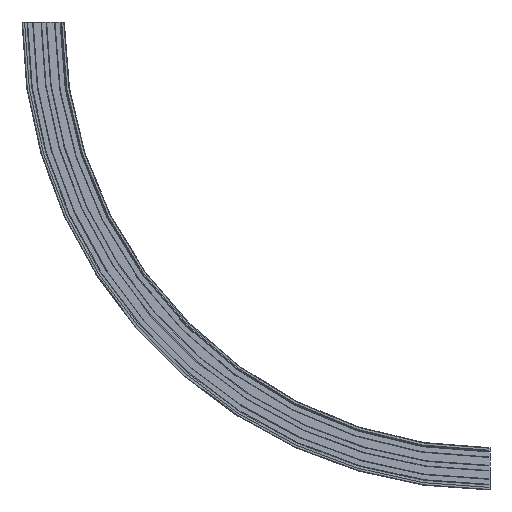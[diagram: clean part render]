
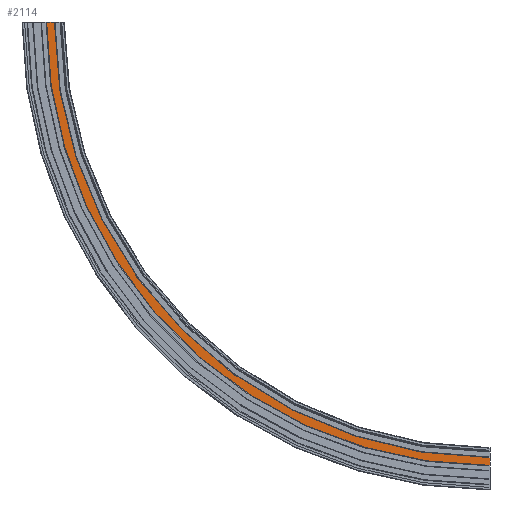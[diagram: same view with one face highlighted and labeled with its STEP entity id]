
A CAD part, left-side view. The second image highlights one B-rep face of the part: STEP entity #2114.
In plain terms, the highlighted planar face has unit normal (-1, 0, 0).
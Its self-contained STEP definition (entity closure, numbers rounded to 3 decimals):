
#202=CIRCLE('',#2290,839.5);
#203=CIRCLE('',#2292,854.5);
#313=FACE_OUTER_BOUND('',#431,.T.);
#431=EDGE_LOOP('',(#1677,#1678,#1679,#1680));
#569=LINE('',#8084,#747);
#570=LINE('',#8086,#748);
#747=VECTOR('',#2700,10.);
#748=VECTOR('',#2701,10.);
#959=VERTEX_POINT('',#8077);
#960=VERTEX_POINT('',#8079);
#961=VERTEX_POINT('',#8083);
#962=VERTEX_POINT('',#8085);
#1235=EDGE_CURVE('',#959,#960,#202,.T.);
#1236=EDGE_CURVE('',#961,#959,#569,.T.);
#1237=EDGE_CURVE('',#962,#960,#570,.T.);
#1238=EDGE_CURVE('',#961,#962,#203,.T.);
#1677=ORIENTED_EDGE('',*,*,#1236,.T.);
#1678=ORIENTED_EDGE('',*,*,#1235,.T.);
#1679=ORIENTED_EDGE('',*,*,#1237,.F.);
#1680=ORIENTED_EDGE('',*,*,#1238,.F.);
#2024=PLANE('',#2291);
#2114=ADVANCED_FACE('',(#313),#2024,.T.);
#2290=AXIS2_PLACEMENT_3D('',#8081,#2696,#2697);
#2291=AXIS2_PLACEMENT_3D('',#8082,#2698,#2699);
#2292=AXIS2_PLACEMENT_3D('',#8087,#2702,#2703);
#2696=DIRECTION('center_axis',(1.,0.,0.));
#2697=DIRECTION('ref_axis',(0.,0.,
-1.));
#2698=DIRECTION('center_axis',(-1.,0.,0.));
#2699=DIRECTION('ref_axis',(0.,0.,1.));
#2700=DIRECTION('',(0.,0.,1.));
#2701=DIRECTION('',(0.,-1.,0.));
#2702=DIRECTION('center_axis',(1.,0.,0.));
#2703=DIRECTION('ref_axis',(0.,0.,
-1.));
#8077=CARTESIAN_POINT('',(-112.,0.,20.5));
#8079=CARTESIAN_POINT('',(-112.,839.5,860.));
#8081=CARTESIAN_POINT('Origin',(-112.,0.,860.));
#8082=CARTESIAN_POINT('Origin',(-112.,0.,5.5));
#8083=CARTESIAN_POINT('',(-112.,0.,5.5));
#8084=CARTESIAN_POINT('',(-112.,0.,5.5));
#8085=CARTESIAN_POINT('',(-112.,854.5,860.));
#8086=CARTESIAN_POINT('',(-112.,854.5,860.));
#8087=CARTESIAN_POINT('Origin',(-112.,0.,860.));
